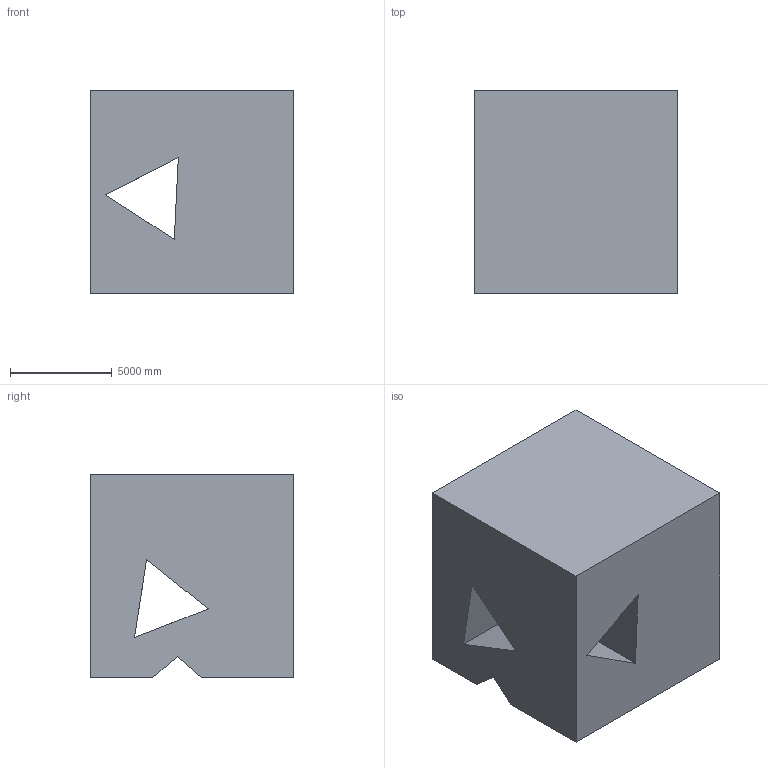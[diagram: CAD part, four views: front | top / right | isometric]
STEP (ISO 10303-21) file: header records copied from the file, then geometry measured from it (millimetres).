
FILE_DESCRIPTION (( 'STEP AP203' ), '1' );
FILE_NAME ('215.STEP', '2022-07-28T13:55:51', ( 'user' ), ( '' ), 'SwSTEP 2.0', 'SolidWorks 2021', '' );
FILE_SCHEMA (( 'CONFIG_CONTROL_DESIGN' ));
Length unit declared in the file: centimetre
Products named in the file (1): 215
Bounding box: 10000 x 10000 x 10000 mm (x, y, z)
Volume: 862059598748.7 mm3; surface area: 781713543.5 mm2
Topology: 1 solids, 1 shells, 17 faces, 51 edges, 34 vertices
Faces by surface type: plane 17
Entity records: 654 total; most frequent: CARTESIAN_POINT 103, ORIENTED_EDGE 102, DIRECTION 87, EDGE_CURVE 51, LINE 51, VECTOR 51, VERTEX_POINT 34, EDGE_LOOP 21
